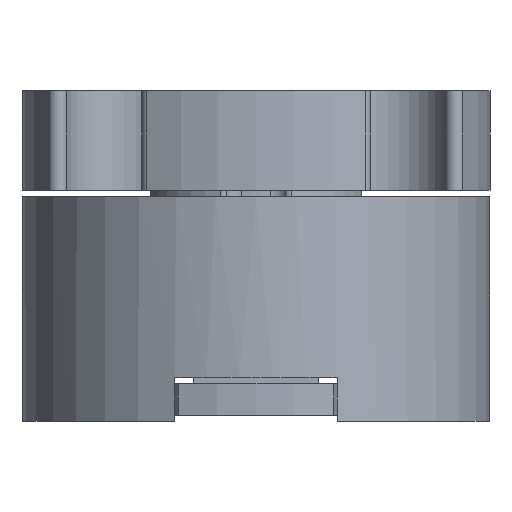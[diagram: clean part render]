
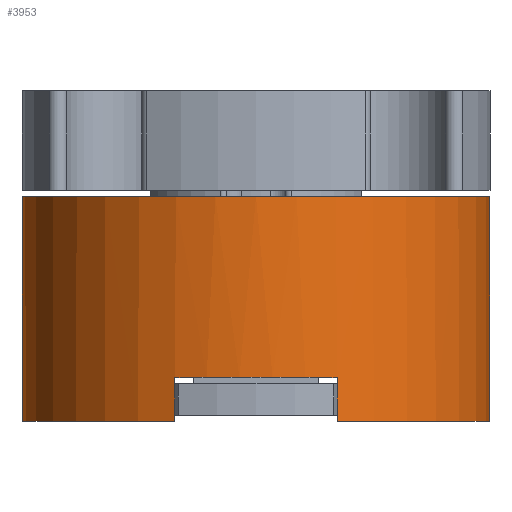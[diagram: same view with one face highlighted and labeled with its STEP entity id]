
A CAD part, front view. The second image highlights one B-rep face of the part: STEP entity #3953.
In plain terms, the highlighted cylindrical face has radius 7.5 mm (diameter 15 mm), a full revolution.
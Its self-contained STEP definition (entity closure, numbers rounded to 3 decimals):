
#199 = ORIENTED_EDGE ( 'NONE', *, *, #1179, .T. ) ;
#267 = VERTEX_POINT ( 'NONE', #3973 ) ;
#372 = ORIENTED_EDGE ( 'NONE', *, *, #2783, .T. ) ;
#605 = CIRCLE ( 'NONE', #3296, 7.5 ) ;
#719 = DIRECTION ( 'NONE',  ( 0., -1., 0. ) ) ;
#726 = VECTOR ( 'NONE', #3500, 1000. ) ;
#743 = LINE ( 'NONE', #1944, #2858 ) ;
#801 = CARTESIAN_POINT ( 'NONE',  ( 2.6, -5.7, 7.035 ) ) ;
#862 = LINE ( 'NONE', #4397, #726 ) ;
#911 = ORIENTED_EDGE ( 'NONE', *, *, #1468, .T. ) ;
#983 = EDGE_CURVE ( 'NONE', #3276, #2690, #2180, .T. ) ;
#1047 = EDGE_CURVE ( 'NONE', #5113, #5113, #1173, .T. ) ;
#1171 = VECTOR ( 'NONE', #5193, 1000. ) ;
#1173 = CIRCLE ( 'NONE', #1917, 7.5 ) ;
#1179 = EDGE_CURVE ( 'NONE', #5256, #3762, #2691, .T. ) ;
#1191 = DIRECTION ( 'NONE',  ( 0., -1., 0. ) ) ;
#1210 = CARTESIAN_POINT ( 'NONE',  ( 2.6, -5.7, -7.035 ) ) ;
#1459 = CARTESIAN_POINT ( 'NONE',  ( -2.6, -4.3, -7.035 ) ) ;
#1468 = EDGE_CURVE ( 'NONE', #3762, #1495, #4029, .T. ) ;
#1495 = VERTEX_POINT ( 'NONE', #2653 ) ;
#1699 = CARTESIAN_POINT ( 'NONE',  ( -2.6, -4.3, 7.035 ) ) ;
#1716 = EDGE_CURVE ( 'NONE', #4532, #4097, #605, .T. ) ;
#1727 = LINE ( 'NONE', #3445, #1171 ) ;
#1783 = DIRECTION ( 'NONE',  ( 0., 1., 0. ) ) ;
#1858 = AXIS2_PLACEMENT_3D ( 'NONE', #2424, #719, #2449 ) ;
#1917 = AXIS2_PLACEMENT_3D ( 'NONE', #1929, #5419, #3641 ) ;
#1929 = CARTESIAN_POINT ( 'NONE',  ( 0., 1.5, 0. ) ) ;
#1944 = CARTESIAN_POINT ( 'NONE',  ( -2.6, 1.5, -7.035 ) ) ;
#2097 = DIRECTION ( 'NONE',  ( 0., 1., 0. ) ) ;
#2180 = CIRCLE ( 'NONE', #4905, 7.5 ) ;
#2220 = ORIENTED_EDGE ( 'NONE', *, *, #1716, .F. ) ;
#2422 = CARTESIAN_POINT ( 'NONE',  ( 0., -5.7, 0. ) ) ;
#2424 = CARTESIAN_POINT ( 'NONE',  ( 0., 1.5, 0. ) ) ;
#2449 = DIRECTION ( 'NONE',  ( 0., 0., -1. ) ) ;
#2480 = DIRECTION ( 'NONE',  ( 0., 1., 0. ) ) ;
#2653 = CARTESIAN_POINT ( 'NONE',  ( 2.6, -4.3, 7.035 ) ) ;
#2690 = VERTEX_POINT ( 'NONE', #1459 ) ;
#2691 = LINE ( 'NONE', #4404, #3622 ) ;
#2783 = EDGE_CURVE ( 'NONE', #2690, #267, #743, .T. ) ;
#2858 = VECTOR ( 'NONE', #3656, 1000. ) ;
#2970 = DIRECTION ( 'NONE',  ( 0., 0., 1. ) ) ;
#3047 = DIRECTION ( 'NONE',  ( 0., 0., 1. ) ) ;
#3158 = ORIENTED_EDGE ( 'NONE', *, *, #5598, .F. ) ;
#3276 = VERTEX_POINT ( 'NONE', #3729 ) ;
#3290 = CYLINDRICAL_SURFACE ( 'NONE', #1858, 7.5 ) ;
#3296 = AXIS2_PLACEMENT_3D ( 'NONE', #4164, #3319, #5057 ) ;
#3319 = DIRECTION ( 'NONE',  ( 0., -1., 0. ) ) ;
#3373 = ORIENTED_EDGE ( 'NONE', *, *, #5220, .T. ) ;
#3445 = CARTESIAN_POINT ( 'NONE',  ( 2.6, 1.5, 7.035 ) ) ;
#3468 = CARTESIAN_POINT ( 'NONE',  ( 0., -4.3, 0. ) ) ;
#3500 = DIRECTION ( 'NONE',  ( 0., 1., 0. ) ) ;
#3622 = VECTOR ( 'NONE', #2480, 1000. ) ;
#3641 = DIRECTION ( 'NONE',  ( 0., 0., 1. ) ) ;
#3656 = DIRECTION ( 'NONE',  ( 0., -1., 0. ) ) ;
#3709 = ORIENTED_EDGE ( 'NONE', *, *, #983, .T. ) ;
#3729 = CARTESIAN_POINT ( 'NONE',  ( 2.6, -4.3, -7.035 ) ) ;
#3754 = AXIS2_PLACEMENT_3D ( 'NONE', #3468, #1783, #3047 ) ;
#3762 = VERTEX_POINT ( 'NONE', #1699 ) ;
#3953 = ADVANCED_FACE ( 'NONE', ( #4594, #4196 ), #3290, .T. ) ;
#3973 = CARTESIAN_POINT ( 'NONE',  ( -2.6, -5.7, -7.035 ) ) ;
#4029 = CIRCLE ( 'NONE', #3754, 7.5 ) ;
#4097 = VERTEX_POINT ( 'NONE', #801 ) ;
#4164 = CARTESIAN_POINT ( 'NONE',  ( 0., -5.7, 0. ) ) ;
#4196 = FACE_OUTER_BOUND ( 'NONE', #5457, .T. ) ;
#4242 = CARTESIAN_POINT ( 'NONE',  ( 0., -4.3, 0. ) ) ;
#4342 = CARTESIAN_POINT ( 'NONE',  ( -2.6, -5.7, 7.035 ) ) ;
#4397 = CARTESIAN_POINT ( 'NONE',  ( 2.6, 1.5, -7.035 ) ) ;
#4404 = CARTESIAN_POINT ( 'NONE',  ( -2.6, 1.5, 7.035 ) ) ;
#4532 = VERTEX_POINT ( 'NONE', #1210 ) ;
#4594 = FACE_OUTER_BOUND ( 'NONE', #5199, .T. ) ;
#4859 = AXIS2_PLACEMENT_3D ( 'NONE', #2422, #1191, #5437 ) ;
#4905 = AXIS2_PLACEMENT_3D ( 'NONE', #4242, #2097, #2970 ) ;
#5012 = EDGE_CURVE ( 'NONE', #1495, #4097, #1727, .T. ) ;
#5057 = DIRECTION ( 'NONE',  ( 0., 0., -1. ) ) ;
#5090 = CARTESIAN_POINT ( 'NONE',  ( 0., 1.5, 7.5 ) ) ;
#5113 = VERTEX_POINT ( 'NONE', #5090 ) ;
#5193 = DIRECTION ( 'NONE',  ( 0., -1., 0. ) ) ;
#5199 = EDGE_LOOP ( 'NONE', ( #5289 ) ) ;
#5220 = EDGE_CURVE ( 'NONE', #4532, #3276, #862, .T. ) ;
#5256 = VERTEX_POINT ( 'NONE', #4342 ) ;
#5289 = ORIENTED_EDGE ( 'NONE', *, *, #1047, .F. ) ;
#5297 = ORIENTED_EDGE ( 'NONE', *, *, #5012, .T. ) ;
#5419 = DIRECTION ( 'NONE',  ( 0., 1., 0. ) ) ;
#5437 = DIRECTION ( 'NONE',  ( 0., 0., -1. ) ) ;
#5457 = EDGE_LOOP ( 'NONE', ( #199, #911, #5297, #2220, #3373, #3709, #372, #3158 ) ) ;
#5591 = CIRCLE ( 'NONE', #4859, 7.5 ) ;
#5598 = EDGE_CURVE ( 'NONE', #5256, #267, #5591, .T. ) ;
